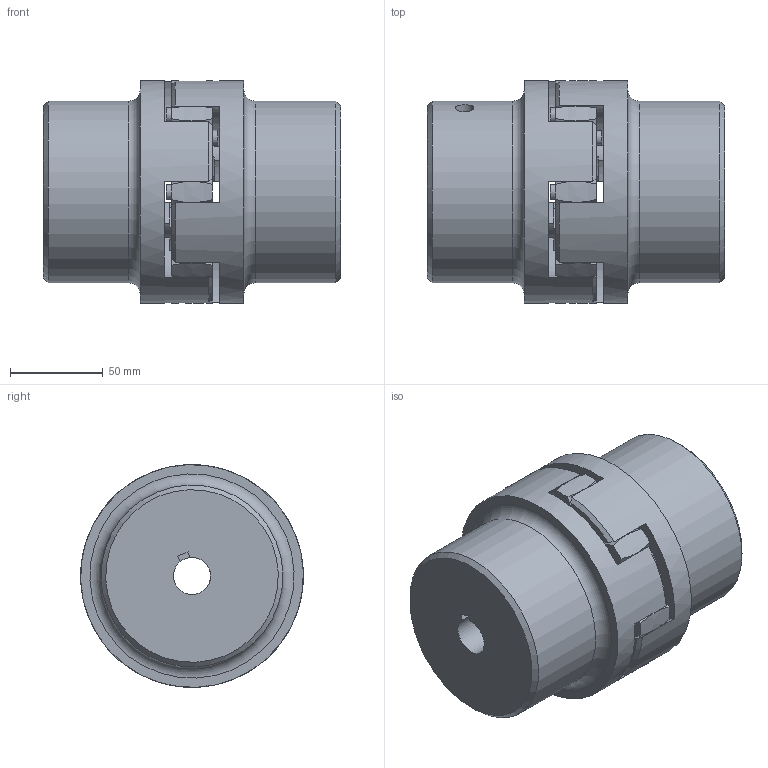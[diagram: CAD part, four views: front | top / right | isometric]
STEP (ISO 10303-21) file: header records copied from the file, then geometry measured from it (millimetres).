
FILE_DESCRIPTION(/* description */ (''),/* implementation_level */ '2;1');
FILE_NAME(/* name */ 'RP55-20-PF-20-PF',/* time_stamp */ '2024-01-05T15:30:10+01:00',/* author */ ('M. Horlacher'),/* organization */ (''),/* preprocessor_version */ 'ST-DEVELOPER v20',/* originating_system */ 'Autodesk Inventor 2024',/* authorisation */ '');
FILE_SCHEMA (('AUTOMOTIVE_DESIGN { 1 0 10303 214 3 1 1 }'));
Length unit declared in the file: millimetre
Products named in the file (4): RP STEP; RP55-Stern-92Shore; RP55-Nabe_1; RP55-Nabe_1_1
Assembly tree (3 placements, depth 2):
  RP STEP
    RP55-Stern-92Shore
    RP55-Nabe_1
    RP55-Nabe_1_1
Bounding box: 160 x 120 x 120 mm (x, y, z)
Volume: 1226344.4 mm3; surface area: 140692.1 mm2
Topology: 3 solids, 3 shells, 141 faces, 369 edges, 246 vertices
Faces by surface type: cylinder 53, plane 44, bspline 32, cone 10, torus 2
Full cylindrical faces by diameter (mm): 8 x8, 10 x2, 60 x1, 98 x2, 120 x2
Entity records: 5726 total; most frequent: CARTESIAN_POINT 2159, ORIENTED_EDGE 738, DIRECTION 697, EDGE_CURVE 369, AXIS2_PLACEMENT_3D 298, VERTEX_POINT 246, CIRCLE 162, EDGE_LOOP 159
